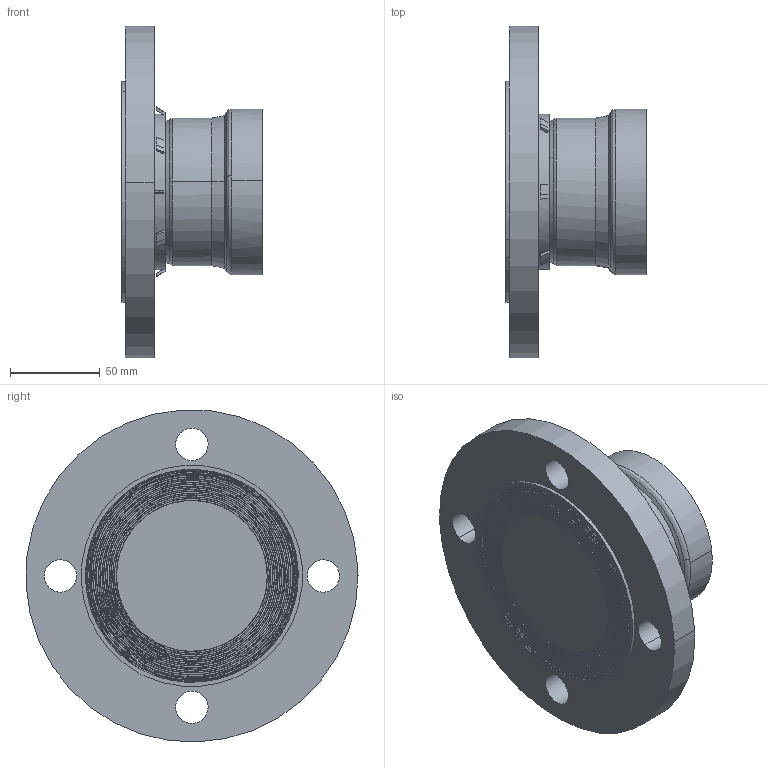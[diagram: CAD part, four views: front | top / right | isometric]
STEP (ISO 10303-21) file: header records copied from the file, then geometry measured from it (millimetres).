
FILE_DESCRIPTION(('STEP AP214'),'1');
FILE_NAME('pim0004627.stp','2015-06-19T05:25:53',('CAD-PIM'),('TransMagic, Inc.'),'TMR11sp0','TransMagic R11',' ');
FILE_SCHEMA(('AUTOMOTIVE_DESIGN'));
Length unit declared in the file: millimetre
Products named in the file (1): 1
Bounding box: 78.26 x 184.45 x 184.41 mm (x, y, z)
Surface area: 129273.5 mm2 (no closed solid volume)
Topology: 0 solids, 1 shells, 852 faces, 2626 edges, 1729 vertices
Faces by surface type: plane 367, cylinder 225, cone 144, bspline 116
Entity records: 40373 total; most frequent: CARTESIAN_POINT 12348, ORIENTED_EDGE 5110, DIRECTION 3671, EDGE_CURVE 2555, VERTEX_POINT 1734, AXIS2_PLACEMENT_3D 1249, LINE 1173, VECTOR 1173
